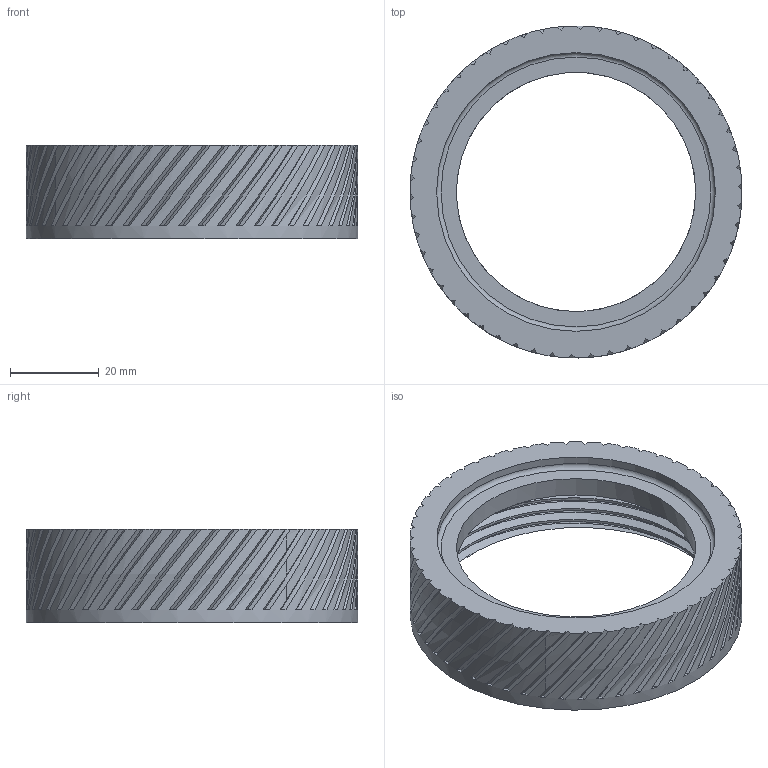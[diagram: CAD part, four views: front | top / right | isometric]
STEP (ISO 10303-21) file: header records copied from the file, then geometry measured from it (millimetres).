
FILE_DESCRIPTION(/* description */ ('STEP AP242','CAx-IF Rec.Pracs.---Representation and Presentation of Product Manufacturing Information (PMI)---4.0---2014-10-13','CAx-IF Rec.Pracs.---3D Tessellated Geometry---0.4---2014-09-14','2;1'),/* implementation_level */ '2;1');
FILE_NAME(/* name */ '6465bb0f7c5e517f9e04eeec',/* time_stamp */ '2023-05-18T05:43:43Z',/* author */ (''),/* organization */ (''),/* preprocessor_version */ 'ST-DEVELOPER v19.4',/* originating_system */ ' ',/* authorisation */ ' ');
FILE_SCHEMA (('AP242_MANAGED_MODEL_BASED_3D_ENGINEERING_MIM_LF { 1 0 10303 442 1 1 4 }'));
Length unit declared in the file: metre
Products named in the file (1): Base 26mm NoMagnet NoLug
Bounding box: 74.9 x 74.9 x 21.2 mm (x, y, z)
Volume: 26086.7 mm3; surface area: 15040.1 mm2
Topology: 1 solids, 1 shells, 228 faces, 667 edges, 445 vertices
Faces by surface type: bspline 152, plane 64, cylinder 7, cone 4, torus 1
Full cylindrical faces by diameter (mm): 54 x1, 62.9 x1, 74.9 x1
Entity records: 14094 total; most frequent: CARTESIAN_POINT 9710, ORIENTED_EDGE 1300, EDGE_CURVE 650, VERTEX_POINT 436, DIRECTION 431, B_SPLINE_CURVE_WITH_KNOTS 323, EDGE_LOOP 236, FACE_BOUND 236
